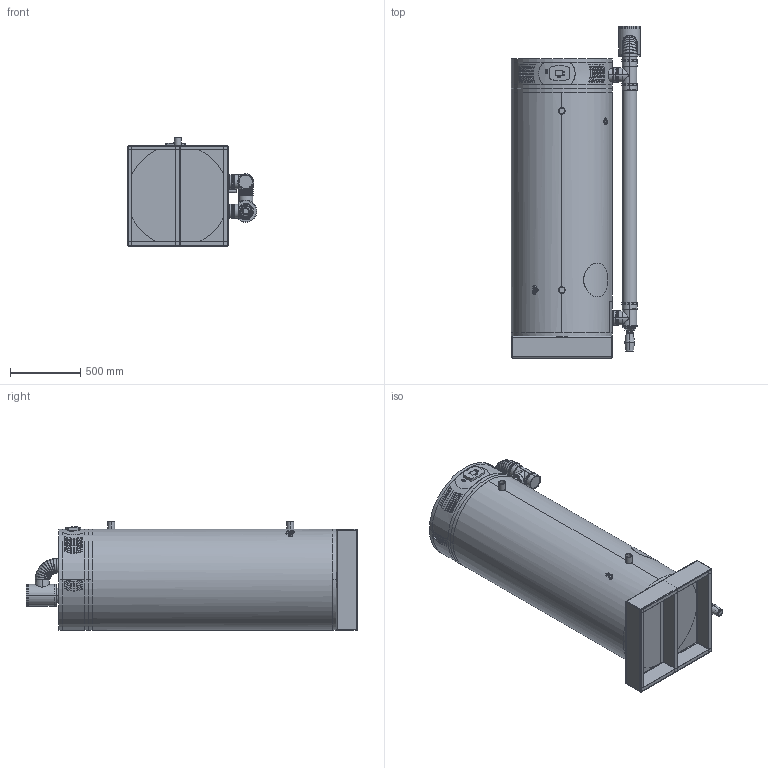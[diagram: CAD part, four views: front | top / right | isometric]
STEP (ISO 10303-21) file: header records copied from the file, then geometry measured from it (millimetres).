
FILE_DESCRIPTION (( 'STEP AP214' ), '1' );
FILE_NAME ('ECOflo 380 met plint.STEP', '2016-04-08T09:38:58', ( 'PI' ), ( '' ), 'SwSTEP 2.0', 'SolidWorks 2013', '' );
FILE_SCHEMA (( 'AUTOMOTIVE_DESIGN' ));
Length unit declared in the file: millimetre
Products named in the file (7): siphon PP 32-40; EF 60-100T Boiler connection 100 bottom; EF 60-100T Boiler connect 100_100-150 L_EF 100T; EF 60-100T Boiler connection 100 top; ECOflo 380; ECOflo 380 met plint; Plint ECOflo
Assembly tree (6 placements, depth 2):
  ECOflo 380 met plint
    ECOflo 380
    EF 60-100T Boiler connection 100 top
    EF 60-100T Boiler connect 100_100-150 L_EF 100T
    EF 60-100T Boiler connection 100 bottom
    siphon PP 32-40
    Plint ECOflo
Bounding box: 921.5 x 2359.62 x 774 mm (x, y, z)
Volume: 804923780 mm3; surface area: 9940838.9 mm2
Topology: 14 solids, 15 shells, 1557 faces, 3695 edges, 2195 vertices
Faces by surface type: cylinder 730, plane 389, torus 218, cone 96, sphere 68, bspline 56
Entity records: 66165 total; most frequent: CARTESIAN_POINT 28029, DIRECTION 7382, ORIENTED_EDGE 7270, EDGE_CURVE 3635, AXIS2_PLACEMENT_3D 3026, VERTEX_POINT 2187, EDGE_LOOP 1670, FACE_OUTER_BOUND 1557
